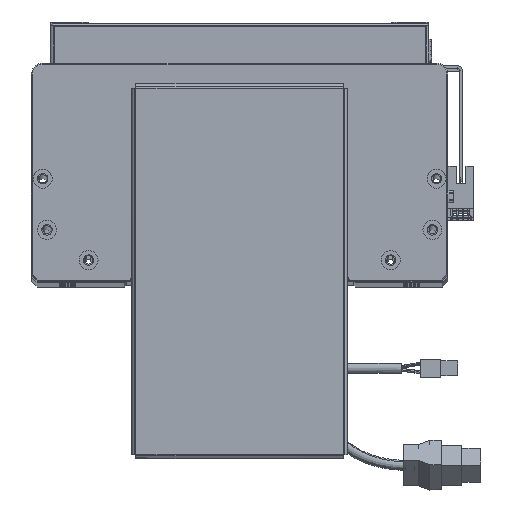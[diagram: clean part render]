
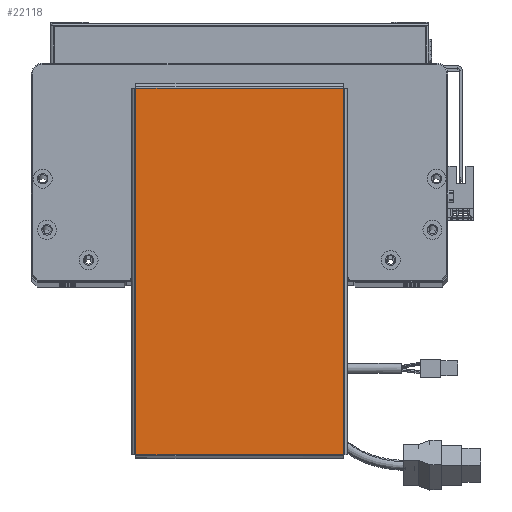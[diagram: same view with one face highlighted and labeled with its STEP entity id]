
A CAD part, top view. The second image highlights one B-rep face of the part: STEP entity #22118.
In plain terms, the highlighted planar face has unit normal (0, 0, 1).
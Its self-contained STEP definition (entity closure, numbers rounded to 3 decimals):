
#1036 = EDGE_LOOP ( 'NONE', ( #60934, #46300, #33858, #38258 ) ) ;
#1280 = CARTESIAN_POINT ( 'NONE',  ( -96.763, 54.763, 0. ) ) ;
#3274 = EDGE_CURVE ( 'NONE', #8776, #64384, #50266, .T. ) ;
#4466 = CARTESIAN_POINT ( 'NONE',  ( -96.763, 54.793, 0. ) ) ;
#4570 = CARTESIAN_POINT ( 'NONE',  ( 96.763, 54.763, 0. ) ) ;
#5784 = DIRECTION ( 'NONE',  ( 0., 1., 0. ) ) ;
#6173 = AXIS2_PLACEMENT_3D ( 'NONE', #19880, #46027, #24678 ) ;
#7228 = EDGE_CURVE ( 'NONE', #18843, #35087, #36498, .T. ) ;
#8533 = VECTOR ( 'NONE', #5784, 1000. ) ;
#8776 = VERTEX_POINT ( 'NONE', #1280 ) ;
#10066 = CARTESIAN_POINT ( 'NONE',  ( 96.793, 54.763, 0. ) ) ;
#10395 = CARTESIAN_POINT ( 'NONE',  ( 96.763, -54.793, 0. ) ) ;
#15420 = FACE_OUTER_BOUND ( 'NONE', #1036, .T. ) ;
#18843 = VERTEX_POINT ( 'NONE', #21948 ) ;
#19880 = CARTESIAN_POINT ( 'NONE',  ( 0., 0., 0. ) ) ;
#21948 = CARTESIAN_POINT ( 'NONE',  ( 96.763, -54.763, 0. ) ) ;
#22118 = ADVANCED_FACE ( 'NONE', ( #15420 ), #24917, .T. ) ;
#24678 = DIRECTION ( 'NONE',  ( 1., 0., 0. ) ) ;
#24917 = PLANE ( 'NONE',  #6173 ) ;
#30611 = VECTOR ( 'NONE', #41211, 1000. ) ;
#33858 = ORIENTED_EDGE ( 'NONE', *, *, #44374, .T. ) ;
#35087 = VERTEX_POINT ( 'NONE', #4570 ) ;
#35790 = DIRECTION ( 'NONE',  ( 1., 0., 0. ) ) ;
#36498 = LINE ( 'NONE', #10395, #8533 ) ;
#38258 = ORIENTED_EDGE ( 'NONE', *, *, #3274, .T. ) ;
#38969 = VECTOR ( 'NONE', #41975, 1000. ) ;
#40613 = LINE ( 'NONE', #10066, #38969 ) ;
#41211 = DIRECTION ( 'NONE',  ( 0., -1., 0. ) ) ;
#41975 = DIRECTION ( 'NONE',  ( -1., 0., 0. ) ) ;
#44374 = EDGE_CURVE ( 'NONE', #35087, #8776, #40613, .T. ) ;
#45470 = LINE ( 'NONE', #66623, #47115 ) ;
#46027 = DIRECTION ( 'NONE',  ( 0., 0., 1. ) ) ;
#46300 = ORIENTED_EDGE ( 'NONE', *, *, #7228, .T. ) ;
#47115 = VECTOR ( 'NONE', #35790, 1000. ) ;
#48485 = EDGE_CURVE ( 'NONE', #64384, #18843, #45470, .T. ) ;
#50266 = LINE ( 'NONE', #4466, #30611 ) ;
#60934 = ORIENTED_EDGE ( 'NONE', *, *, #48485, .T. ) ;
#61567 = CARTESIAN_POINT ( 'NONE',  ( -96.763, -54.763, 0. ) ) ;
#64384 = VERTEX_POINT ( 'NONE', #61567 ) ;
#66623 = CARTESIAN_POINT ( 'NONE',  ( -96.793, -54.763, 0. ) ) ;
